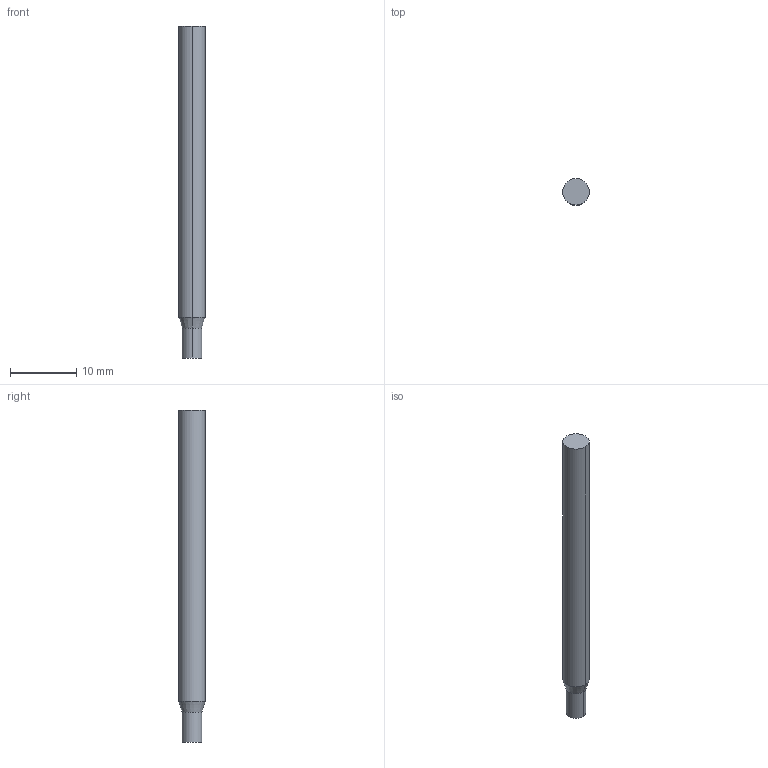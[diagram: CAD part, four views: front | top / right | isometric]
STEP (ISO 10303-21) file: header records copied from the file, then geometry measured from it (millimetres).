
FILE_DESCRIPTION((' '),'2;1');
FILE_NAME( '3MVSM0300AH.stp', '2026-01-21T19:27:56', (' '), ('--- Datakit www.datakit.com---'), ' Datakit CrossCadWare V2025.4 Sep 19 2025', 'Mastercam 2027', ' ');
FILE_SCHEMA(('AUTOMOTIVE_DESIGN { 1 0 10303 214 1 1 1 1 }'));
Length unit declared in the file: inch
Products named in the file (1): 3MVSM0300AH
Bounding box: 4 x 4 x 50 mm (x, y, z)
Volume: 599 mm3; surface area: 632.1 mm2
Topology: 1 solids, 1 shells, 8 faces, 14 edges, 8 vertices
Faces by surface type: cylinder 4, plane 2, cone 2
Entity records: 264 total; most frequent: DIRECTION 48, CARTESIAN_POINT 35, ORIENTED_EDGE 28, AXIS2_PLACEMENT_3D 21, EDGE_CURVE 14, VERTEX_POINT 8, CIRCLE 8, EDGE_LOOP 8
